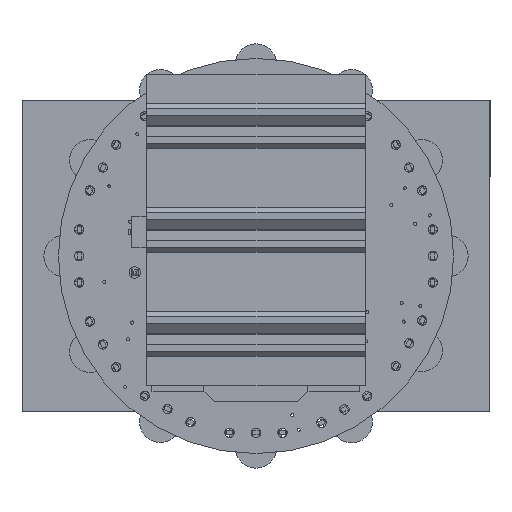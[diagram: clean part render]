
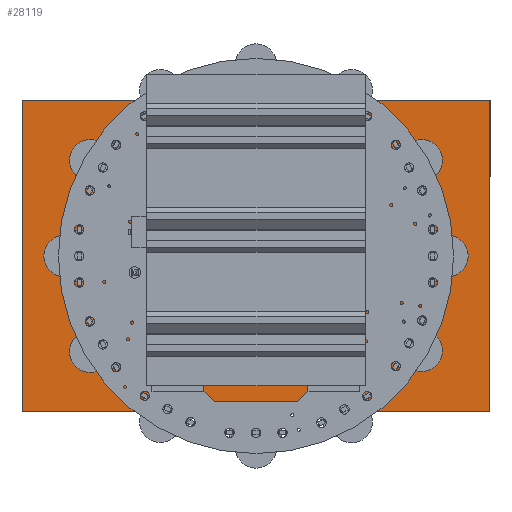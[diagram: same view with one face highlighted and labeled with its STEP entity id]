
A CAD part, front view. The second image highlights one B-rep face of the part: STEP entity #28119.
In plain terms, the highlighted planar face has unit normal (0, -1, 0).
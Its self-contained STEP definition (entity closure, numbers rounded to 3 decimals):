
#1177=FACE_BOUND('',#5575,.T.);
#1178=FACE_BOUND('',#5576,.T.);
#1179=FACE_BOUND('',#5577,.T.);
#1180=FACE_BOUND('',#5578,.T.);
#2229=PLANE('',#30681);
#3746=FACE_OUTER_BOUND('',#5574,.T.);
#5574=EDGE_LOOP('',(#25366,#25367,#25368,#25369));
#5575=EDGE_LOOP('',(#25370));
#5576=EDGE_LOOP('',(#25371));
#5577=EDGE_LOOP('',(#25372));
#5578=EDGE_LOOP('',(#25373));
#8245=LINE('',#47983,#10987);
#8277=LINE('',#48047,#11019);
#8324=LINE('',#48141,#11066);
#8325=LINE('',#48142,#11067);
#10987=VECTOR('',#37861,10.);
#11019=VECTOR('',#37907,10.);
#11066=VECTOR('',#37964,10.);
#11067=VECTOR('',#37965,10.);
#11762=CIRCLE('',#30682,1.2);
#11763=CIRCLE('',#30683,1.2);
#11764=CIRCLE('',#30684,1.2);
#11765=CIRCLE('',#30685,1.2);
#14131=VERTEX_POINT('',#47980);
#14132=VERTEX_POINT('',#47982);
#14156=VERTEX_POINT('',#48043);
#14157=VERTEX_POINT('',#48045);
#14200=VERTEX_POINT('',#48143);
#14201=VERTEX_POINT('',#48145);
#14202=VERTEX_POINT('',#48147);
#14203=VERTEX_POINT('',#48149);
#17865=EDGE_CURVE('',#14131,#14132,#8245,.T.);
#17897=EDGE_CURVE('',#14157,#14156,#8277,.T.);
#17944=EDGE_CURVE('',#14131,#14156,#8324,.F.);
#17945=EDGE_CURVE('',#14157,#14132,#8325,.F.);
#17946=EDGE_CURVE('',#14200,#14200,#11762,.T.);
#17947=EDGE_CURVE('',#14201,#14201,#11763,.T.);
#17948=EDGE_CURVE('',#14202,#14202,#11764,.T.);
#17949=EDGE_CURVE('',#14203,#14203,#11765,.T.);
#25366=ORIENTED_EDGE('',*,*,#17944,.T.);
#25367=ORIENTED_EDGE('',*,*,#17897,.F.);
#25368=ORIENTED_EDGE('',*,*,#17945,.T.);
#25369=ORIENTED_EDGE('',*,*,#17865,.F.);
#25370=ORIENTED_EDGE('',*,*,#17946,.F.);
#25371=ORIENTED_EDGE('',*,*,#17947,.F.);
#25372=ORIENTED_EDGE('',*,*,#17948,.F.);
#25373=ORIENTED_EDGE('',*,*,#17949,.F.);
#28119=ADVANCED_FACE('',(#3746,#1177,#1178,#1179,#1180),#2229,.F.);
#30681=AXIS2_PLACEMENT_3D('',#48140,#37962,#37963);
#30682=AXIS2_PLACEMENT_3D('',#48144,#37966,#37967);
#30683=AXIS2_PLACEMENT_3D('',#48146,#37968,#37969);
#30684=AXIS2_PLACEMENT_3D('',#48148,#37970,#37971);
#30685=AXIS2_PLACEMENT_3D('',#48150,#37972,#37973);
#37861=DIRECTION('',(0.,0.,-1.));
#37907=DIRECTION('',(0.,0.,1.));
#37962=DIRECTION('center_axis',(0.,1.,0.));
#37963=DIRECTION('ref_axis',(-1.,0.,0.));
#37964=DIRECTION('',(1.,0.,0.));
#37965=DIRECTION('',(-1.,0.,0.));
#37966=DIRECTION('center_axis',(0.,-1.,0.));
#37967=DIRECTION('ref_axis',(-1.,0.,0.));
#37968=DIRECTION('center_axis',(0.,-1.,0.));
#37969=DIRECTION('ref_axis',(-1.,0.,0.));
#37970=DIRECTION('center_axis',(0.,-1.,0.));
#37971=DIRECTION('ref_axis',(-1.,0.,0.));
#37972=DIRECTION('center_axis',(0.,-1.,0.));
#37973=DIRECTION('ref_axis',(-1.,0.,0.));
#47980=CARTESIAN_POINT('',(43.5,24.62,-6.));
#47982=CARTESIAN_POINT('',(43.5,24.62,-36.));
#47983=CARTESIAN_POINT('',(43.5,24.62,-21.));
#48043=CARTESIAN_POINT('',(-1.5,24.62,-6.));
#48045=CARTESIAN_POINT('',(-1.5,24.62,-36.));
#48047=CARTESIAN_POINT('',(-1.5,24.62,-21.));
#48140=CARTESIAN_POINT('Origin',(21.,24.62,-21.));
#48141=CARTESIAN_POINT('',(21.,24.62,-6.));
#48142=CARTESIAN_POINT('',(21.,24.62,-36.));
#48143=CARTESIAN_POINT('',(29.7,24.62,-31.));
#48144=CARTESIAN_POINT('Origin',(28.5,24.62,-31.));
#48145=CARTESIAN_POINT('',(14.7,24.62,-11.));
#48146=CARTESIAN_POINT('Origin',(13.5,24.62,-11.));
#48147=CARTESIAN_POINT('',(29.7,24.62,-11.));
#48148=CARTESIAN_POINT('Origin',(28.5,24.62,-11.));
#48149=CARTESIAN_POINT('',(14.7,24.62,-31.));
#48150=CARTESIAN_POINT('Origin',(13.5,24.62,-31.));
